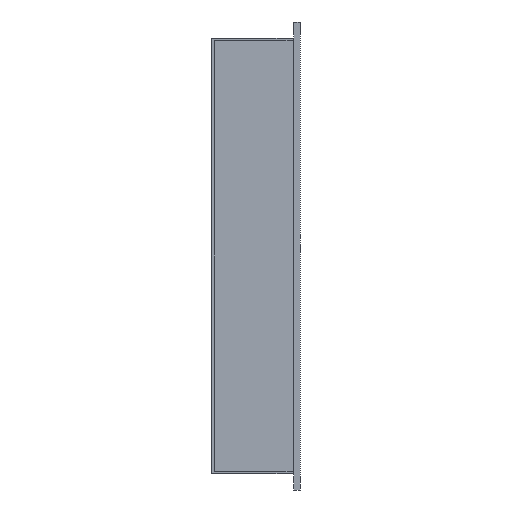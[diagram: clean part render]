
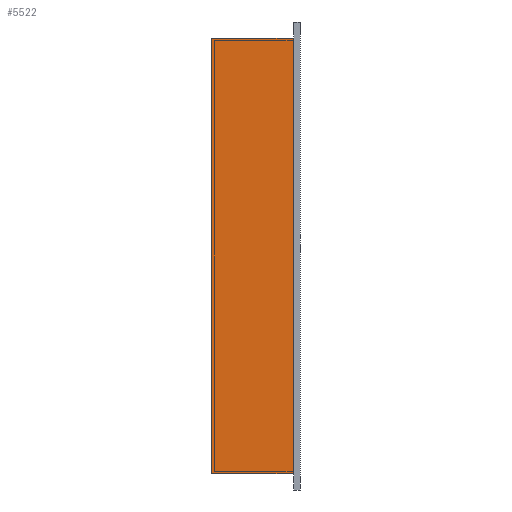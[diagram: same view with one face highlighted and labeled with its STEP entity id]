
A CAD part, left-side view. The second image highlights one B-rep face of the part: STEP entity #5522.
In plain terms, the highlighted planar face has unit normal (-1, 0, 0).
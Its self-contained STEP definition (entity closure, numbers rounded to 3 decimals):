
#23 = CARTESIAN_POINT ( 'NONE',  ( -113., 0.2, -67. ) ) ;
#33 = DIRECTION ( 'NONE',  ( 0., 1., 0. ) ) ;
#34 = ORIENTED_EDGE ( 'NONE', *, *, #5580, .F. ) ;
#205 = ORIENTED_EDGE ( 'NONE', *, *, #3733, .T. ) ;
#469 = CARTESIAN_POINT ( 'NONE',  ( -113., 25.2, 67. ) ) ;
#795 = CARTESIAN_POINT ( 'NONE',  ( -113., 0.2, -67. ) ) ;
#1036 = PLANE ( 'NONE',  #2409 ) ;
#1213 = ORIENTED_EDGE ( 'NONE', *, *, #2260, .F. ) ;
#1343 = VERTEX_POINT ( 'NONE', #4318 ) ;
#1499 = VERTEX_POINT ( 'NONE', #2441 ) ;
#1527 = DIRECTION ( 'NONE',  ( 1., 0., 0. ) ) ;
#1776 = EDGE_CURVE ( 'NONE', #1343, #3535, #3319, .T. ) ;
#1788 = ORIENTED_EDGE ( 'NONE', *, *, #1776, .T. ) ;
#2209 = VECTOR ( 'NONE', #2473, 1000. ) ;
#2260 = EDGE_CURVE ( 'NONE', #1343, #2388, #5452, .T. ) ;
#2388 = VERTEX_POINT ( 'NONE', #469 ) ;
#2409 = AXIS2_PLACEMENT_3D ( 'NONE', #4079, #1527, #33 ) ;
#2441 = CARTESIAN_POINT ( 'NONE',  ( -113., 0.2, 67. ) ) ;
#2473 = DIRECTION ( 'NONE',  ( 0., 0., 1. ) ) ;
#2892 = VECTOR ( 'NONE', #3023, 1000. ) ;
#3023 = DIRECTION ( 'NONE',  ( 0., 0., 1. ) ) ;
#3246 = VECTOR ( 'NONE', #3523, 1000. ) ;
#3319 = LINE ( 'NONE', #3907, #3448 ) ;
#3355 = DIRECTION ( 'NONE',  ( 0., -1., 0. ) ) ;
#3448 = VECTOR ( 'NONE', #3355, 1000. ) ;
#3523 = DIRECTION ( 'NONE',  ( 0., -1., 0. ) ) ;
#3535 = VERTEX_POINT ( 'NONE', #795 ) ;
#3588 = CARTESIAN_POINT ( 'NONE',  ( -113., 25.2, 67. ) ) ;
#3733 = EDGE_CURVE ( 'NONE', #3535, #1499, #3934, .T. ) ;
#3907 = CARTESIAN_POINT ( 'NONE',  ( -113., 25.2, -67. ) ) ;
#3934 = LINE ( 'NONE', #23, #2892 ) ;
#3988 = CARTESIAN_POINT ( 'NONE',  ( -113., 25.2, -67. ) ) ;
#4079 = CARTESIAN_POINT ( 'NONE',  ( -113., 25.2, -67. ) ) ;
#4318 = CARTESIAN_POINT ( 'NONE',  ( -113., 25.2, -67. ) ) ;
#4537 = LINE ( 'NONE', #3588, #3246 ) ;
#4599 = FACE_OUTER_BOUND ( 'NONE', #5229, .T. ) ;
#5229 = EDGE_LOOP ( 'NONE', ( #205, #34, #1213, #1788 ) ) ;
#5452 = LINE ( 'NONE', #3988, #2209 ) ;
#5522 = ADVANCED_FACE ( 'NONE', ( #4599 ), #1036, .F. ) ;
#5580 = EDGE_CURVE ( 'NONE', #2388, #1499, #4537, .T. ) ;
